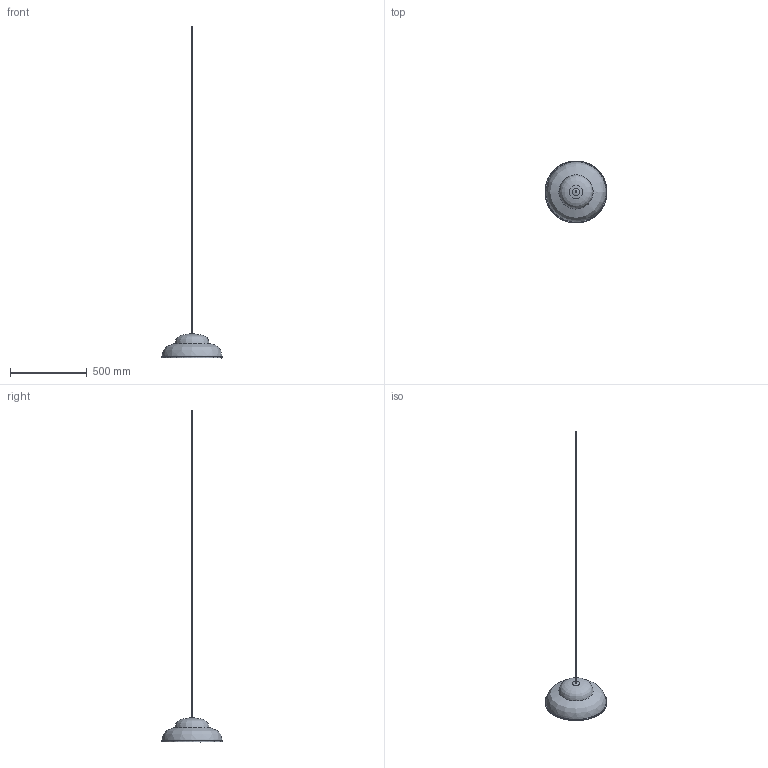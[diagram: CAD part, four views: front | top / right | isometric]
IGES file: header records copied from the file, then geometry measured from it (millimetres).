
Global section: file name: /Users/064_p/Desktop/3d data for homepage/FROG40 V2 P.igs; native system: Rhinoceros ( Jul  7 2025 ); preprocessor: Trout Lake IGES 012 Jul  7 2025; date: 260805.083342; units: millimetre
Bounding box: 403.15 x 403.14 x 2159.04 mm (x, y, z)
Surface area: 291962.4 mm2 (no closed solid volume)
Topology: 0 solids, 0 shells, 11 faces, 46 edges, 38 vertices
Faces by surface type: bspline 11
